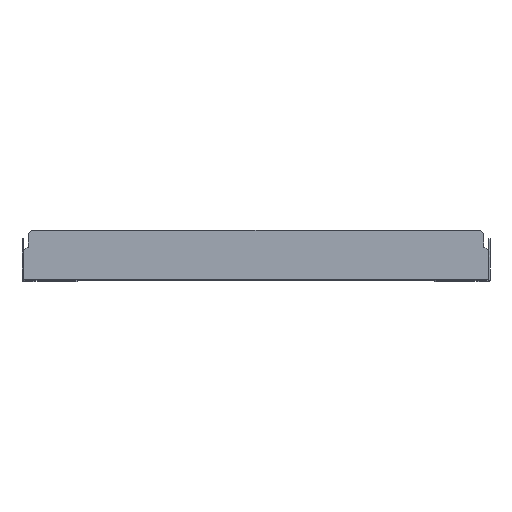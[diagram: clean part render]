
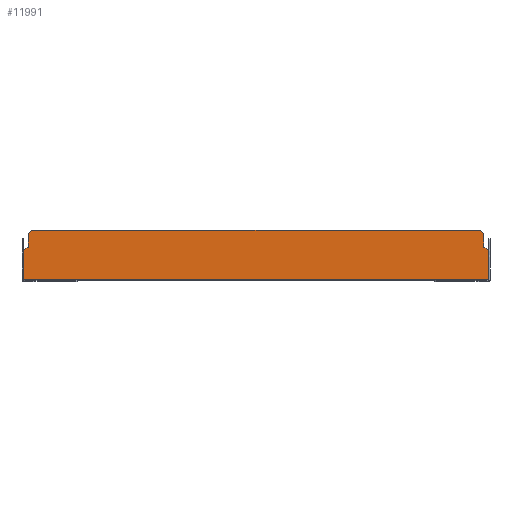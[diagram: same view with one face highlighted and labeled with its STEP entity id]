
A CAD part, front view. The second image highlights one B-rep face of the part: STEP entity #11991.
In plain terms, the highlighted planar face has unit normal (0, -1, 0).
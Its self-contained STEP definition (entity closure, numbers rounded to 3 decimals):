
#10246=CARTESIAN_POINT(' ',(347.5,-1.5,0.6));
#10247=VERTEX_POINT(' ',#10246);
#10261=CARTESIAN_POINT(' ',(347.5,-1.5,0.6));
#10266=DIRECTION(' ',(-1.,0.,0.));
#10271=VECTOR(' ',#10266,1.);
#10276=LINE('',#10261,#10271);
#10281=CARTESIAN_POINT(' ',(-347.5,-1.5,0.6));
#10282=VERTEX_POINT(' ',#10281);
#10286=EDGE_CURVE(' ',#10247,#10282,#10276,.T.);
#10426=CARTESIAN_POINT(' ',(347.5,-1.5,43.5));
#10427=VERTEX_POINT(' ',#10426);
#10441=CARTESIAN_POINT(' ',(347.5,-1.5,43.5));
#10446=DIRECTION(' ',(0.,0.,-1.));
#10451=VECTOR(' ',#10446,1.);
#10456=LINE('',#10441,#10451);
#10461=EDGE_CURVE(' ',#10427,#10247,#10456,.T.);
#11601=DIRECTION(' ',(0.,-1.,0.));
#11606=CARTESIAN_POINT(' ',(-347.5,-1.5,73.5));
#11611=DIRECTION(' ',(0.,0.,-1.));
#11616=AXIS2_PLACEMENT_3D(' ',#11606,#11601,#11611);
#11621=PLANE('NONE',#11616);
#11626=ORIENTED_EDGE(' ',*,*,#10461,.F.);
#11631=CARTESIAN_POINT(' ',(347.5,-1.5,43.5));
#11636=DIRECTION(' ',(-0.707,0.,0.707));
#11641=VECTOR(' ',#11636,1.);
#11646=LINE('',#11631,#11641);
#11651=CARTESIAN_POINT(' ',(342.5,-1.5,48.5));
#11652=VERTEX_POINT(' ',#11651);
#11656=EDGE_CURVE(' ',#10427,#11652,#11646,.T.);
#11661=ORIENTED_EDGE(' ',*,*,#11656,.T.);
#11666=CARTESIAN_POINT(' ',(340.5,-1.5,48.5));
#11671=DIRECTION(' ',(1.,0.,0.));
#11676=VECTOR(' ',#11671,1.);
#11681=LINE('',#11666,#11676);
#11686=CARTESIAN_POINT(' ',(340.5,-1.5,48.5));
#11687=VERTEX_POINT(' ',#11686);
#11691=EDGE_CURVE(' ',#11687,#11652,#11681,.T.);
#11696=ORIENTED_EDGE(' ',*,*,#11691,.F.);
#11701=CARTESIAN_POINT(' ',(340.5,-1.5,48.5));
#11706=DIRECTION(' ',(0.,0.,1.));
#11711=VECTOR(' ',#11706,1.);
#11716=LINE('',#11701,#11711);
#11721=CARTESIAN_POINT(' ',(340.5,-1.5,68.5));
#11722=VERTEX_POINT(' ',#11721);
#11726=EDGE_CURVE(' ',#11687,#11722,#11716,.T.);
#11731=ORIENTED_EDGE(' ',*,*,#11726,.T.);
#11736=CARTESIAN_POINT(' ',(340.5,-1.5,68.5));
#11741=DIRECTION(' ',(-0.707,0.,0.707));
#11746=VECTOR(' ',#11741,1.);
#11751=LINE('',#11736,#11746);
#11756=CARTESIAN_POINT(' ',(335.5,-1.5,73.5));
#11757=VERTEX_POINT(' ',#11756);
#11761=EDGE_CURVE(' ',#11722,#11757,#11751,.T.);
#11766=ORIENTED_EDGE(' ',*,*,#11761,.T.);
#11771=CARTESIAN_POINT(' ',(335.5,-1.5,73.5));
#11776=DIRECTION(' ',(-1.,0.,0.));
#11781=VECTOR(' ',#11776,1.);
#11786=LINE('',#11771,#11781);
#11791=CARTESIAN_POINT(' ',(-335.5,-1.5,73.5));
#11792=VERTEX_POINT(' ',#11791);
#11796=EDGE_CURVE(' ',#11757,#11792,#11786,.T.);
#11801=ORIENTED_EDGE(' ',*,*,#11796,.T.);
#11806=CARTESIAN_POINT(' ',(-335.5,-1.5,73.5));
#11811=DIRECTION(' ',(-0.707,0.,-0.707));
#11816=VECTOR(' ',#11811,1.);
#11821=LINE('',#11806,#11816);
#11826=CARTESIAN_POINT(' ',(-340.5,-1.5,68.5));
#11827=VERTEX_POINT(' ',#11826);
#11831=EDGE_CURVE(' ',#11792,#11827,#11821,.T.);
#11836=ORIENTED_EDGE(' ',*,*,#11831,.T.);
#11841=CARTESIAN_POINT(' ',(-340.5,-1.5,48.5));
#11846=DIRECTION(' ',(0.,0.,1.));
#11851=VECTOR(' ',#11846,1.);
#11856=LINE('',#11841,#11851);
#11861=CARTESIAN_POINT(' ',(-340.5,-1.5,48.5));
#11862=VERTEX_POINT(' ',#11861);
#11866=EDGE_CURVE(' ',#11862,#11827,#11856,.T.);
#11871=ORIENTED_EDGE(' ',*,*,#11866,.F.);
#11876=CARTESIAN_POINT(' ',(-340.5,-1.5,48.5));
#11881=DIRECTION(' ',(-1.,0.,0.));
#11886=VECTOR(' ',#11881,1.);
#11891=LINE('',#11876,#11886);
#11896=CARTESIAN_POINT(' ',(-342.5,-1.5,48.5));
#11897=VERTEX_POINT(' ',#11896);
#11901=EDGE_CURVE(' ',#11862,#11897,#11891,.T.);
#11906=ORIENTED_EDGE(' ',*,*,#11901,.T.);
#11911=CARTESIAN_POINT(' ',(-342.5,-1.5,48.5));
#11916=DIRECTION(' ',(-0.707,0.,-0.707));
#11921=VECTOR(' ',#11916,1.);
#11926=LINE('',#11911,#11921);
#11931=CARTESIAN_POINT(' ',(-347.5,-1.5,43.5));
#11932=VERTEX_POINT(' ',#11931);
#11936=EDGE_CURVE(' ',#11897,#11932,#11926,.T.);
#11941=ORIENTED_EDGE(' ',*,*,#11936,.T.);
#11946=CARTESIAN_POINT(' ',(-347.5,-1.5,0.6));
#11951=DIRECTION(' ',(0.,0.,1.));
#11956=VECTOR(' ',#11951,1.);
#11961=LINE('',#11946,#11956);
#11966=EDGE_CURVE(' ',#10282,#11932,#11961,.T.);
#11971=ORIENTED_EDGE(' ',*,*,#11966,.F.);
#11976=ORIENTED_EDGE(' ',*,*,#10286,.F.);
#11981=EDGE_LOOP(' ',(#11626,#11661,#11696,#11731,#11766,#11801,#11836,#11871,#11906,#11941,#11971,#11976));
#11986=FACE_OUTER_BOUND(' ',#11981,.T.);
#11991=ADVANCED_FACE('NONE',(#11986),#11621,.T.);
